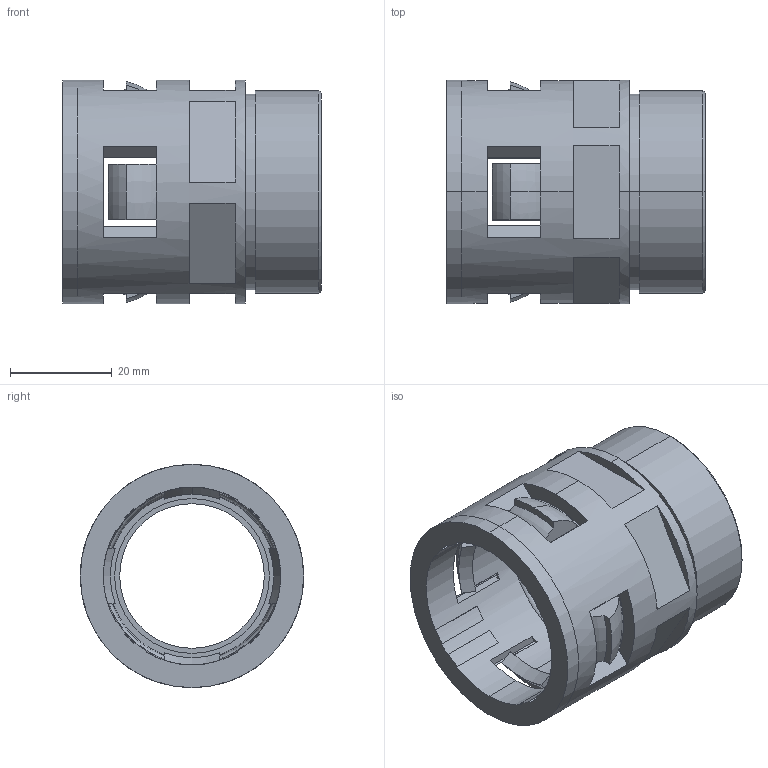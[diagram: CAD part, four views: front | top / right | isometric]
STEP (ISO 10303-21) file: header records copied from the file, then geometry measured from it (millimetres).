
FILE_DESCRIPTION (( 'STEP AP203' ), '1' );
FILE_NAME ('WQG-M40-AD34.5.STEP', '2013-02-18T08:01:31', ( 'User' ), ( 'Microsoft' ), 'SwSTEP 2.0', 'SolidWorks 2010', '' );
FILE_SCHEMA (( 'CONFIG_CONTROL_DESIGN' ));
Length unit declared in the file: millimetre
Products named in the file (4): WQG-M40-AD34.5; WQG-M40-AD34.5-01; GFD-AD34.5; NSK-AD34.5
Assembly tree (3 placements, depth 2):
  WQG-M40-AD34.5
    WQG-M40-AD34.5-01
    NSK-AD34.5
    GFD-AD34.5
Bounding box: 51 x 44 x 44 mm (x, y, z)
Volume: 23087.6 mm3; surface area: 23379.8 mm2
Topology: 3 solids, 3 shells, 215 faces, 564 edges, 356 vertices
Faces by surface type: plane 109, cone 45, cylinder 38, torus 23
Entity records: 7251 total; most frequent: CARTESIAN_POINT 1325, DIRECTION 1241, ORIENTED_EDGE 1128, EDGE_CURVE 564, AXIS2_PLACEMENT_3D 480, VERTEX_POINT 356, LINE 281, VECTOR 281
